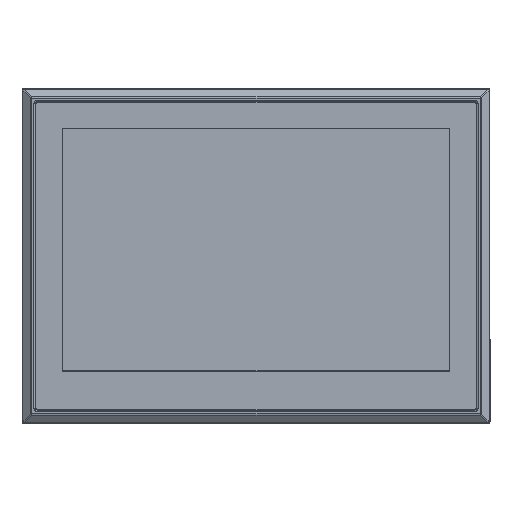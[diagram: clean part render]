
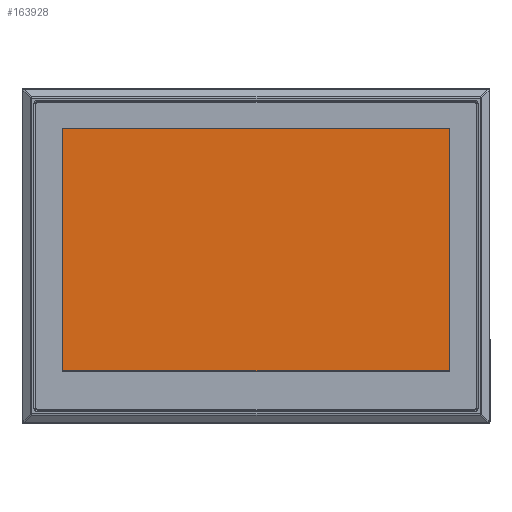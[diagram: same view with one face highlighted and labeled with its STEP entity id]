
A CAD part, top view. The second image highlights one B-rep face of the part: STEP entity #163928.
In plain terms, the highlighted planar face has unit normal (0, 0, 1).
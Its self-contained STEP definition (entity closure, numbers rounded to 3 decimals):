
#9313 = VERTEX_POINT ( 'NONE', #215196 ) ;
#10608 = FACE_OUTER_BOUND ( 'NONE', #201992, .T. ) ;
#18871 = VERTEX_POINT ( 'NONE', #52469 ) ;
#21715 = CARTESIAN_POINT ( 'NONE',  ( -88.577, -67.716, 51.35 ) ) ;
#23869 = EDGE_CURVE ( 'NONE', #114349, #18871, #52236, .T. ) ;
#29282 = CARTESIAN_POINT ( 'NONE',  ( 19.903, -3.416, 51.35 ) ) ;
#34542 = VECTOR ( 'NONE', #93888, 1000. ) ;
#38387 = ORIENTED_EDGE ( 'NONE', *, *, #234995, .T. ) ;
#38561 = VERTEX_POINT ( 'NONE', #156154 ) ;
#47937 = PLANE ( 'NONE',  #75155 ) ;
#52236 = LINE ( 'NONE', #108218, #222678 ) ;
#52469 = CARTESIAN_POINT ( 'NONE',  ( -88.577, -67.716, 51.35 ) ) ;
#62895 = DIRECTION ( 'NONE',  ( 1., 0., 0. ) ) ;
#71737 = CARTESIAN_POINT ( 'NONE',  ( 128.383, 67.884, 51.35 ) ) ;
#75155 = AXIS2_PLACEMENT_3D ( 'NONE', #29282, #87688, #62895 ) ;
#75409 = EDGE_CURVE ( 'NONE', #9313, #114349, #105272, .T. ) ;
#86877 = VECTOR ( 'NONE', #214717, 1000. ) ;
#87688 = DIRECTION ( 'NONE',  ( 0., 0., 1. ) ) ;
#93888 = DIRECTION ( 'NONE',  ( 1., 0., 0. ) ) ;
#99759 = ORIENTED_EDGE ( 'NONE', *, *, #113274, .T. ) ;
#105272 = LINE ( 'NONE', #158749, #86877 ) ;
#108218 = CARTESIAN_POINT ( 'NONE',  ( -88.577, 67.884, 51.35 ) ) ;
#113274 = EDGE_CURVE ( 'NONE', #38561, #9313, #146377, .T. ) ;
#114349 = VERTEX_POINT ( 'NONE', #131610 ) ;
#119461 = ORIENTED_EDGE ( 'NONE', *, *, #23869, .T. ) ;
#131610 = CARTESIAN_POINT ( 'NONE',  ( -88.577, 67.884, 51.35 ) ) ;
#146377 = LINE ( 'NONE', #71737, #232475 ) ;
#156154 = CARTESIAN_POINT ( 'NONE',  ( 128.383, -67.716, 51.35 ) ) ;
#158749 = CARTESIAN_POINT ( 'NONE',  ( -88.577, 67.884, 51.35 ) ) ;
#161732 = DIRECTION ( 'NONE',  ( 0., -1., 0. ) ) ;
#163928 = ADVANCED_FACE ( 'NONE', ( #10608 ), #47937, .T. ) ;
#188375 = LINE ( 'NONE', #21715, #34542 ) ;
#198983 = ORIENTED_EDGE ( 'NONE', *, *, #75409, .T. ) ;
#201992 = EDGE_LOOP ( 'NONE', ( #119461, #38387, #99759, #198983 ) ) ;
#214717 = DIRECTION ( 'NONE',  ( -1., 0., 0. ) ) ;
#215196 = CARTESIAN_POINT ( 'NONE',  ( 128.383, 67.884, 51.35 ) ) ;
#222678 = VECTOR ( 'NONE', #161732, 1000. ) ;
#232475 = VECTOR ( 'NONE', #240904, 1000. ) ;
#234995 = EDGE_CURVE ( 'NONE', #18871, #38561, #188375, .T. ) ;
#240904 = DIRECTION ( 'NONE',  ( 0., 1., 0. ) ) ;
